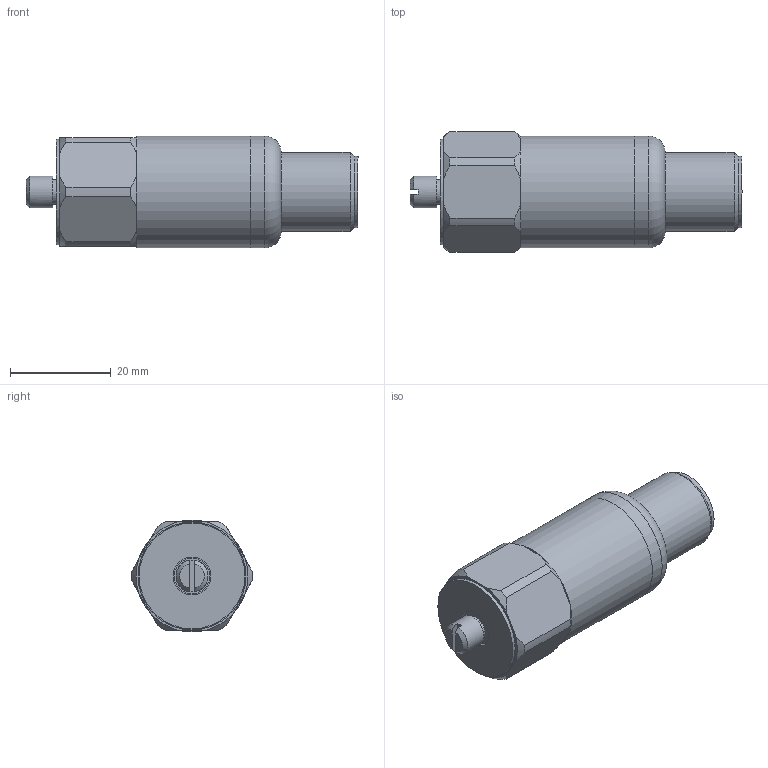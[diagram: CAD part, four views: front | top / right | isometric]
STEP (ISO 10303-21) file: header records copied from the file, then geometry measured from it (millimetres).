
FILE_DESCRIPTION(/* description */ (''),/* implementation_level */ '2;1');
FILE_NAME(/* name */ 'Z:\Engineering\Drawings\3D Library\Assemblies\Website\Premium Top\HS-150 Top 2 Pin MS\HS-150XXX5002.stp',/* time_stamp */ '2023-03-12T11:01:58+00:00',/* author */ ('Ricardo.Peneda'),/* organization */ (''),/* preprocessor_version */ 'ST-DEVELOPER v18.1',/* originating_system */ 'Autodesk Inventor 2021',/* authorisation */ '');
FILE_SCHEMA (('AUTOMOTIVE_DESIGN { 1 0 10303 214 3 1 1 }'));
Length unit declared in the file: inch
Products named in the file (1): HS-150XXX5002_Shrinkwrap_1
Bounding box: 65.97 x 23.99 x 22.2 mm (x, y, z)
Volume: 14319.7 mm3; surface area: 7661.7 mm2
Topology: 3 solids, 3 shells, 74 faces, 195 edges, 138 vertices
Faces by surface type: plane 37, cylinder 22, cone 14, torus 1
Full cylindrical faces by diameter (mm): 4.914 x2, 5.359 x1, 6.34 x2, 7.027 x1, 7.5 x1, 11.37 x1, 14.28 x1, 15.055 x1, 15.7 x1, 19 x1, 20 x1, 21 x1, 22.2 x2
Entity records: 2451 total; most frequent: CARTESIAN_POINT 471, DIRECTION 414, ORIENTED_EDGE 388, EDGE_CURVE 194, AXIS2_PLACEMENT_3D 177, VERTEX_POINT 138, CIRCLE 102, EDGE_LOOP 86
